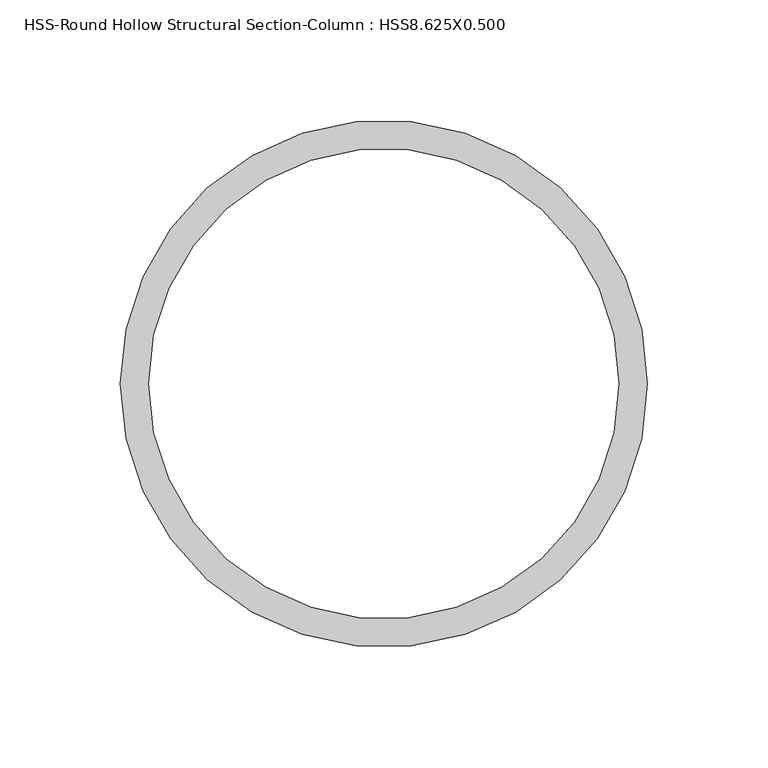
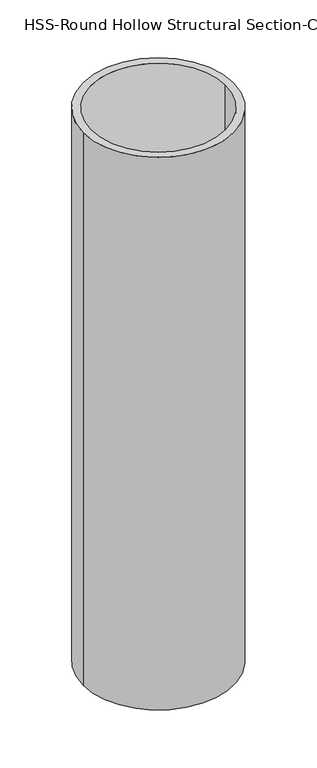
"""IFC4 building model written with IfcOpenShell, lengths in millimetres: column geometry, HSS-Round Hollow Structural Section-Column : HSS8.625X0.500."""

from ifc_helpers import new_model, si_unit, point, frame, origin, origin_2d, place, context, project, spatial, circle_curve, trimmed, segment, composite_curve, outline, extrude, source, transform, mapped, element, save


def hss_round_hollow_structural_section_column_hss8_625x0_500_1ae648ad(model_context):
    return source(origin(), model_context, "Body", "SweptSolid", [
        extrude(outline(composite_curve([segment(trimmed(circle_curve(origin_2d(), 109.5375), [point((-109.5375, 0.0))], [point((109.5375, 0.0))], False, "CARTESIAN"), True, "CONTINUOUS"), segment(trimmed(circle_curve(origin_2d(), 109.5375), [point((109.5375, 0.0))], [point((-109.5375, 0.0))], False, "CARTESIAN"), True, "CONTINUOUS")], self_intersect=False), holes=[composite_curve([segment(trimmed(circle_curve(origin_2d(), 97.7265), [point((-97.7265, 0.0))], [point((97.7265, 0.0))], True, "CARTESIAN"), True, "CONTINUOUS"), segment(trimmed(circle_curve(origin_2d(), 97.7265), [point((97.7265, 0.0))], [point((-97.7265, 0.0))], True, "CARTESIAN"), True, "CONTINUOUS")], self_intersect=False)]), frame((0.0, 0.0, 293700.2), z_axis=(0.0, 0.0, 1.0), x_axis=(1.0, 0.0, 0.0)), (0.0, 0.0, 1.0), 850.9),
    ])


if __name__ == "__main__":
    model = new_model("IFC4")
    model_context = context("Model", 3, world=origin())
    ifc_project = project(units=[si_unit("LENGTHUNIT", "METRE", prefix="MILLI")], contexts=[model_context])
    site = spatial("IfcSite", under=ifc_project)
    building = spatial("IfcBuilding", under=site)
    placement = place(None, origin())
    hss_round_hollow_structural_section_column_hss8_625x0_500_shape = hss_round_hollow_structural_section_column_hss8_625x0_500_1ae648ad(model_context)
    element("IfcColumn", 1, ObjectType="HSS-Round Hollow Structural Section-Column : HSS8.625X0.500", at=placement, inside=building, context=model_context, shape_type="MappedRepresentation", body=[
        mapped(hss_round_hollow_structural_section_column_hss8_625x0_500_shape, transform((0.0, 0.0, 0.0), x_axis=(1.0, 0.0, 0.0), y_axis=(0.0, 1.0, 0.0), z_axis=(0.0, 0.0, 1.0))),
    ])
    save(model, "model.ifc")
